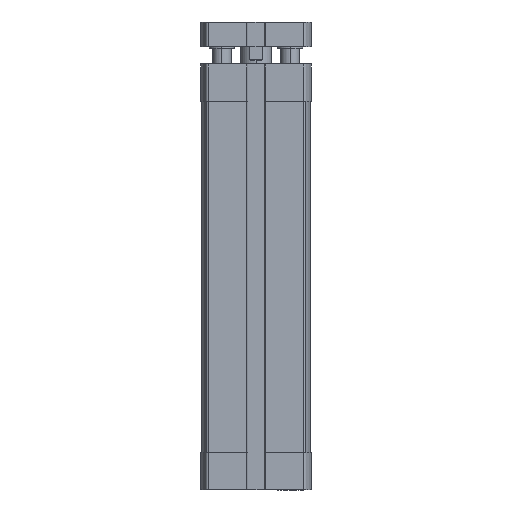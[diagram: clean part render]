
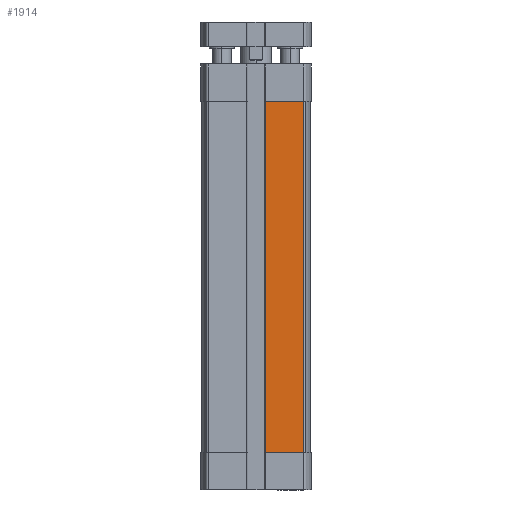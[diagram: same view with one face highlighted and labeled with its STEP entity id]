
A CAD part, front view. The second image highlights one B-rep face of the part: STEP entity #1914.
In plain terms, the highlighted planar face has unit normal (0, -1, 0) as drawn and (-1, 0, 0) by its records, which use the part's own axes.
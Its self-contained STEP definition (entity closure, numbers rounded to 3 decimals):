
#985 = EDGE_CURVE ( 'NONE', #12043, #12192, #18331, .T. ) ;
#1889 = DIRECTION ( 'NONE',  ( 0., 1., 0. ) ) ;
#1914 = ADVANCED_FACE ( 'NONE', ( #18249 ), #18158, .T. ) ;
#2228 = VERTEX_POINT ( 'NONE', #5355 ) ;
#2277 = LINE ( 'NONE', #17003, #6094 ) ;
#2581 = VECTOR ( 'NONE', #12797, 1000. ) ;
#3305 = CARTESIAN_POINT ( 'NONE',  ( -17.5, -3.1, -125. ) ) ;
#3454 = CARTESIAN_POINT ( 'NONE',  ( -17.5, -15.253, -12. ) ) ;
#3783 = CARTESIAN_POINT ( 'NONE',  ( -17.5, -15.253, -125. ) ) ;
#3880 = CARTESIAN_POINT ( 'NONE',  ( -17.5, -3.1, -12. ) ) ;
#4237 = ORIENTED_EDGE ( 'NONE', *, *, #6306, .T. ) ;
#5355 = CARTESIAN_POINT ( 'NONE',  ( -17.5, -3.1, -125. ) ) ;
#6094 = VECTOR ( 'NONE', #6558, 1000. ) ;
#6212 = DIRECTION ( 'NONE',  ( -1., 0., 0. ) ) ;
#6306 = EDGE_CURVE ( 'NONE', #13703, #12043, #14521, .T. ) ;
#6558 = DIRECTION ( 'NONE',  ( 0., 0., 1. ) ) ;
#7132 = LINE ( 'NONE', #17333, #14721 ) ;
#7806 = ORIENTED_EDGE ( 'NONE', *, *, #985, .T. ) ;
#12043 = VERTEX_POINT ( 'NONE', #3454 ) ;
#12181 = CARTESIAN_POINT ( 'NONE',  ( -17.5, 0., -12. ) ) ;
#12192 = VERTEX_POINT ( 'NONE', #3880 ) ;
#12797 = DIRECTION ( 'NONE',  ( 0., 0., 1. ) ) ;
#13703 = VERTEX_POINT ( 'NONE', #13929 ) ;
#13929 = CARTESIAN_POINT ( 'NONE',  ( -17.5, -15.253, -125. ) ) ;
#14400 = DIRECTION ( 'NONE',  ( 0., -1., 0. ) ) ;
#14521 = LINE ( 'NONE', #3783, #2581 ) ;
#14636 = AXIS2_PLACEMENT_3D ( 'NONE', #3305, #6212, #16758 ) ;
#14721 = VECTOR ( 'NONE', #14400, 1000. ) ;
#15936 = ORIENTED_EDGE ( 'NONE', *, *, #16395, .T. ) ;
#16395 = EDGE_CURVE ( 'NONE', #2228, #13703, #7132, .T. ) ;
#16758 = DIRECTION ( 'NONE',  ( 0., 0., 1. ) ) ;
#17003 = CARTESIAN_POINT ( 'NONE',  ( -17.5, -3.1, -125. ) ) ;
#17333 = CARTESIAN_POINT ( 'NONE',  ( -17.5, -3.1, -125. ) ) ;
#17871 = VECTOR ( 'NONE', #1889, 1000. ) ;
#17994 = EDGE_LOOP ( 'NONE', ( #15936, #4237, #7806, #17995 ) ) ;
#17995 = ORIENTED_EDGE ( 'NONE', *, *, #19149, .F. ) ;
#18158 = PLANE ( 'NONE',  #14636 ) ;
#18249 = FACE_OUTER_BOUND ( 'NONE', #17994, .T. ) ;
#18331 = LINE ( 'NONE', #12181, #17871 ) ;
#19149 = EDGE_CURVE ( 'NONE', #2228, #12192, #2277, .T. ) ;
